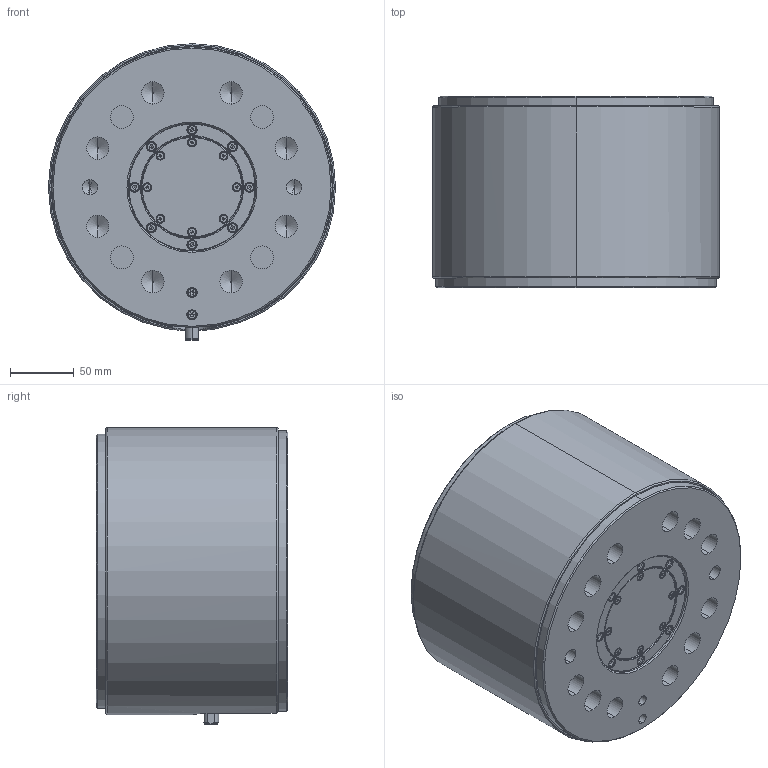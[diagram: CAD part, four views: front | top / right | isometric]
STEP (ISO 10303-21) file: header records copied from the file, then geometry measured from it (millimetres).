
FILE_DESCRIPTION (( 'STEP AP203' ), '1' );
FILE_NAME ('K3A225.STEP', '2021-07-30T08:57:35', ( '' ), ( '' ), 'SwSTEP 2.0', 'SolidWorks 2018', '' );
FILE_SCHEMA (( 'CONFIG_CONTROL_DESIGN' ));
Length unit declared in the file: millimetre
Products named in the file (12): socket countersunk head screw_iso_ISO 10642 - M3 x 8 - 8N; socket head cap screw_din_DIN 912 M4 x 20 --- 20C; E-2018-0015-00230; E-2018-0015-00350_K3A225-M12; socket head cap screw_din_A2_DIN 912 M4 x 12 --- 12C; E-2018-0015-00247_Huelse_K3A225; B-2018-0015-00234; E-2018-0015-00237; K3A225; NT-2021-00167; B-2018-0015-00231_250kN-250kN-500kN; E-2018-0015-00232_250kN-250kN-500kN
Assembly tree (26 placements, depth 4):
  K3A225
    B-2018-0015-00231_250kN-250kN-500kN
      E-2018-0015-00232_250kN-250kN-500kN
      B-2018-0015-00234
        E-2018-0015-00237
        E-2018-0015-00230
        socket head cap screw_din_A2_DIN 912 M4 x 12 --- 12C  x8
        socket countersunk head screw_iso_ISO 10642 - M3 x 8 - 8N  x8
      E-2018-0015-00350_K3A225-M12
      NT-2021-00167
      socket head cap screw_din_DIN 912 M4 x 20 --- 20C  x2
    E-2018-0015-00247_Huelse_K3A225
Bounding box: 225 x 150 x 232.5 mm (x, y, z)
Volume: 5516934.8 mm3; surface area: 473264.5 mm2
Topology: 23 solids, 38 shells, 1255 faces, 2966 edges, 1812 vertices
Faces by surface type: plane 550, cylinder 328, cone 198, bspline 120, torus 59
Entity records: 34918 total; most frequent: CARTESIAN_POINT 13310, ORIENTED_EDGE 4086, DIRECTION 4060, EDGE_CURVE 2060, AXIS2_PLACEMENT_3D 1474, VERTEX_POINT 1331, LINE 1112, VECTOR 1112
